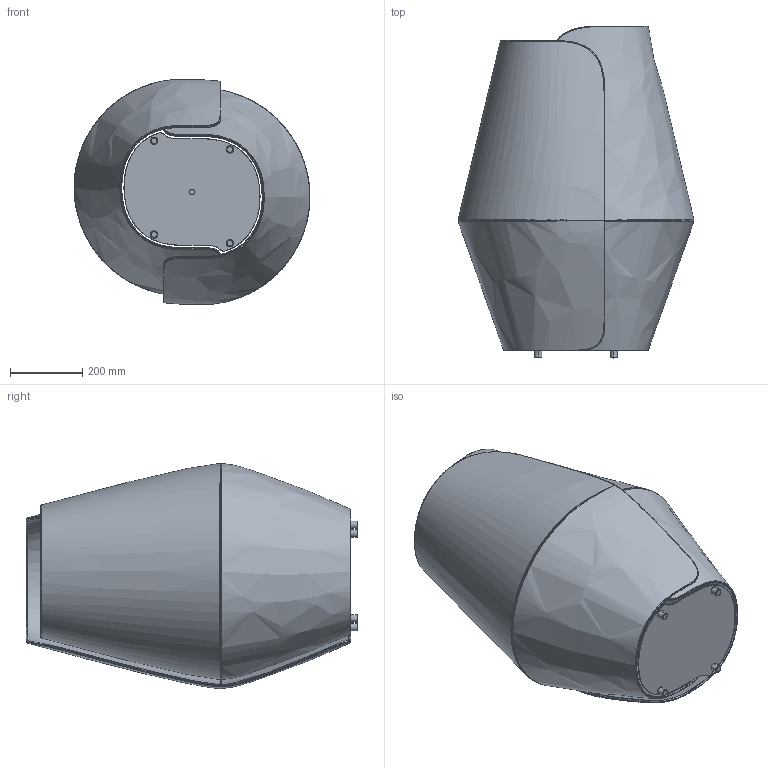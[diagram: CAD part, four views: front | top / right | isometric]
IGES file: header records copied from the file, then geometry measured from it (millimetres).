
Start section: SolidWorks IGES file using analytic representation for surfaces
Global section: file name: C:\Users\liamb\Dropbox\Rakumba Marketing - Design\LIGHTWEIGHT CAD MODEL LIBRARY\Exported File Formats FOR CLIENT USE - Public\Volute\Volute - 900 Floor\Volute - Floor 900.IGS; native system: SolidWorks 2017; preprocessor: SolidWorks 2017; author: liamb; date: 230331.095649; units: millimetre
Bounding box: 654.15 x 920 x 624.96 mm (x, y, z)
Surface area: 3809818.5 mm2 (no closed solid volume)
Topology: 0 solids, 0 shells, 190 faces, 4648 edges, 4639 vertices
Faces by surface type: bspline 162, revolution 28
